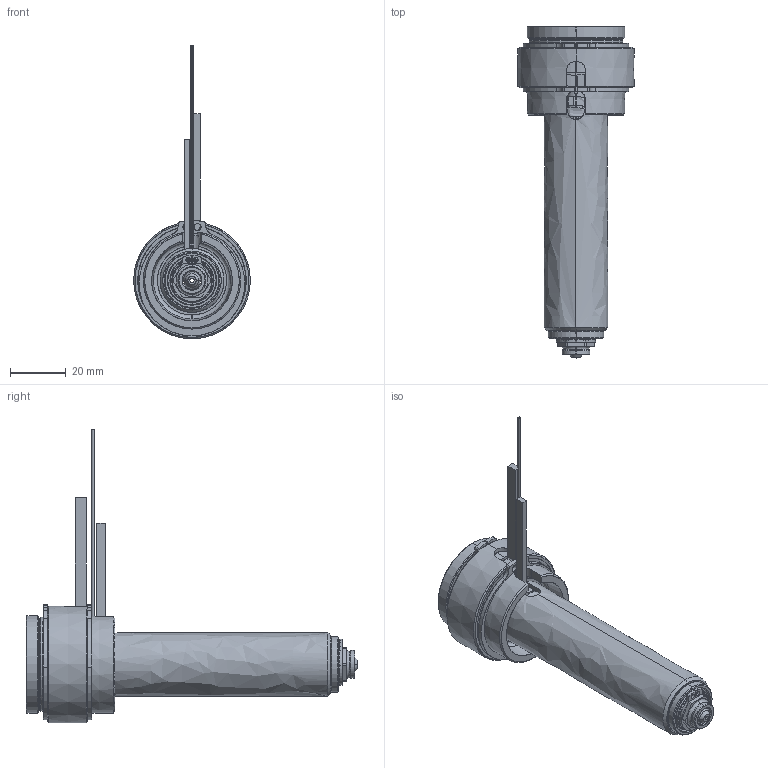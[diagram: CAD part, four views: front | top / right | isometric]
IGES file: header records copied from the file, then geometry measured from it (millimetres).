
Start section: SolidWorks IGES file using analytic representation for surfaces
Global section: file name: C:\Documents and Settings\ws-20\Desktop\TEM\UGER3552-S-A-0 [Øb-1.50  ØC-7.0].IGS; native system: SolidWorks 2012; preprocessor: SolidWorks 2012; author: ws-20; date: 120410.100709; units: millimetre
Bounding box: 42 x 119.4 x 105.6 mm (x, y, z)
Surface area: 38381.9 mm2 (no closed solid volume)
Topology: 0 solids, 0 shells, 208 faces, 3600 edges, 3600 vertices
Faces by surface type: revolution 134, bspline 74
